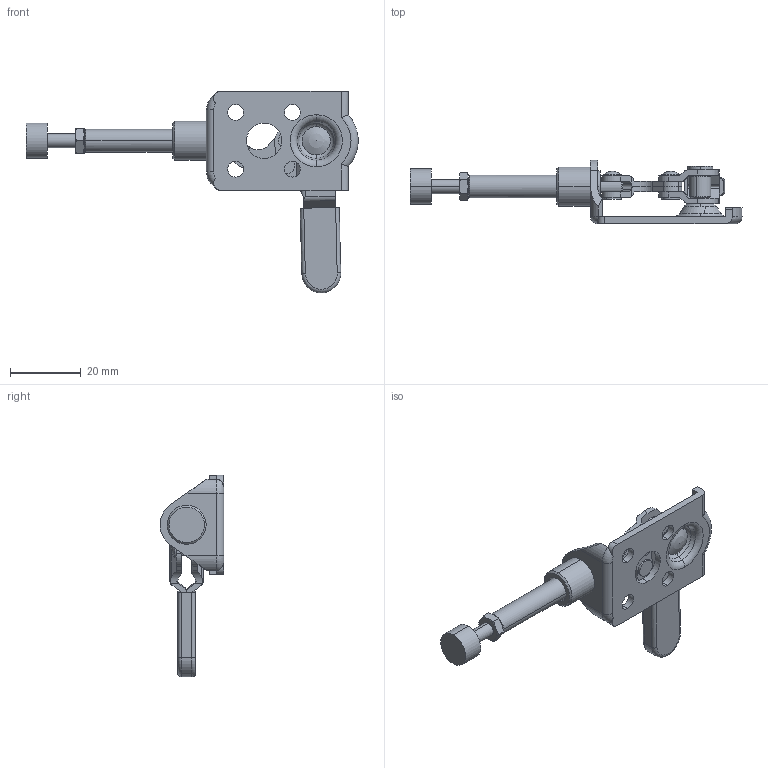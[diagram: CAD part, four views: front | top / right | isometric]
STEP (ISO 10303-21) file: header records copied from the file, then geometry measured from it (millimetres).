
FILE_DESCRIPTION (( 'STEP AP214' ), '1' );
FILE_NAME ('ISK-SL50R0-T1.STEP', '2024-06-24T01:23:36', ( '' ), ( '' ), 'SwSTEP 2.0', 'SolidWorks 2024', '' );
FILE_SCHEMA (( 'AUTOMOTIVE_DESIGN' ));
Length unit declared in the file: millimetre
Products named in the file (12): Grip; Handle; Guide; Rubber bolt_M4×18; Link; Arm; ISK-SL50R0-T1; hexagon nut_3_jis_JIS B 1181 Hexagon nut - Class 3 Finished M4 --N; Rivet_Φ3×6; Base; Coller; Rivet_Φ4×12
Assembly tree (13 placements, depth 2):
  ISK-SL50R0-T1
    Base
    Guide
    Arm
    Handle
    Link
    Rivet_Φ3×6  x3
    Coller
    Grip
    Rubber bolt_M4×18
    hexagon nut_3_jis_JIS B 1181 Hexagon nut - Class 3 Finished M4 --N
    Rivet_Φ4×12
Bounding box: 93.7 x 17.97 x 56.92 mm (x, y, z)
Volume: 8306.1 mm3; surface area: 11411.7 mm2
Topology: 15 solids, 15 shells, 304 faces, 738 edges, 473 vertices
Faces by surface type: cylinder 136, plane 113, cone 36, torus 13, sphere 4, bspline 2
Entity records: 9257 total; most frequent: CARTESIAN_POINT 1725, DIRECTION 1517, ORIENTED_EDGE 1376, EDGE_CURVE 688, AXIS2_PLACEMENT_3D 599, VERTEX_POINT 441, EDGE_LOOP 337, VECTOR 319
